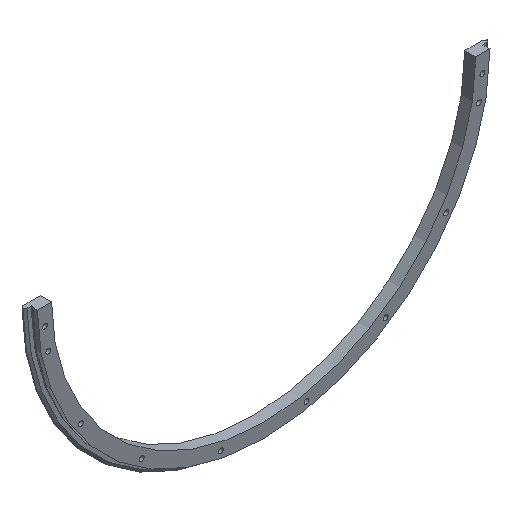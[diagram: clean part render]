
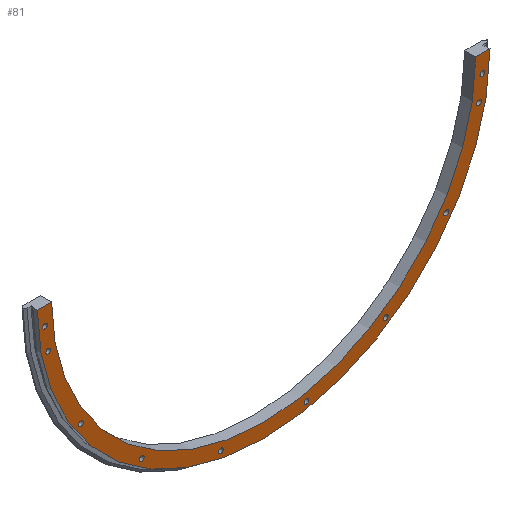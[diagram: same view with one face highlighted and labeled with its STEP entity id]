
A CAD part, isometric view. The second image highlights one B-rep face of the part: STEP entity #81.
In plain terms, the highlighted planar face has unit normal (0, -1, 0).
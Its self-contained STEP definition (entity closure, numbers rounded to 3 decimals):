
#81 = ADVANCED_FACE( '', ( #130, #131, #132, #133, #134, #135, #136, #137, #138, #139, #140 ), #141, .T. );
#130 = FACE_BOUND( '', #265, .T. );
#131 = FACE_BOUND( '', #266, .T. );
#132 = FACE_BOUND( '', #267, .T. );
#133 = FACE_BOUND( '', #268, .T. );
#134 = FACE_BOUND( '', #269, .T. );
#135 = FACE_BOUND( '', #270, .T. );
#136 = FACE_BOUND( '', #271, .T. );
#137 = FACE_BOUND( '', #272, .T. );
#138 = FACE_BOUND( '', #273, .T. );
#139 = FACE_BOUND( '', #274, .T. );
#140 = FACE_OUTER_BOUND( '', #275, .T. );
#141 = PLANE( '', #276 );
#265 = EDGE_LOOP( '', ( #436 ) );
#266 = EDGE_LOOP( '', ( #437 ) );
#267 = EDGE_LOOP( '', ( #438 ) );
#268 = EDGE_LOOP( '', ( #439 ) );
#269 = EDGE_LOOP( '', ( #440 ) );
#270 = EDGE_LOOP( '', ( #441 ) );
#271 = EDGE_LOOP( '', ( #442 ) );
#272 = EDGE_LOOP( '', ( #443 ) );
#273 = EDGE_LOOP( '', ( #444 ) );
#274 = EDGE_LOOP( '', ( #445 ) );
#275 = EDGE_LOOP( '', ( #446, #447, #448, #449 ) );
#276 = AXIS2_PLACEMENT_3D( '', #450, #451, #452 );
#436 = ORIENTED_EDGE( '', *, *, #676, .F. );
#437 = ORIENTED_EDGE( '', *, *, #677, .F. );
#438 = ORIENTED_EDGE( '', *, *, #678, .F. );
#439 = ORIENTED_EDGE( '', *, *, #679, .F. );
#440 = ORIENTED_EDGE( '', *, *, #680, .F. );
#441 = ORIENTED_EDGE( '', *, *, #681, .F. );
#442 = ORIENTED_EDGE( '', *, *, #682, .F. );
#443 = ORIENTED_EDGE( '', *, *, #683, .F. );
#444 = ORIENTED_EDGE( '', *, *, #684, .F. );
#445 = ORIENTED_EDGE( '', *, *, #685, .F. );
#446 = ORIENTED_EDGE( '', *, *, #674, .T. );
#447 = ORIENTED_EDGE( '', *, *, #655, .T. );
#448 = ORIENTED_EDGE( '', *, *, #686, .F. );
#449 = ORIENTED_EDGE( '', *, *, #687, .T. );
#450 = CARTESIAN_POINT( '', ( -298.75, 0., 0. ) );
#451 = DIRECTION( '', ( 0., -1., 0. ) );
#452 = DIRECTION( '', ( 0., 0., -1. ) );
#655 = EDGE_CURVE( '', #726, #727, #728, .T. );
#674 = EDGE_CURVE( '', #760, #726, #761, .T. );
#676 = EDGE_CURVE( '', #763, #763, #764, .T. );
#677 = EDGE_CURVE( '', #765, #765, #766, .T. );
#678 = EDGE_CURVE( '', #767, #767, #768, .T. );
#679 = EDGE_CURVE( '', #769, #769, #770, .T. );
#680 = EDGE_CURVE( '', #771, #771, #772, .T. );
#681 = EDGE_CURVE( '', #773, #773, #774, .T. );
#682 = EDGE_CURVE( '', #775, #775, #776, .T. );
#683 = EDGE_CURVE( '', #777, #777, #778, .T. );
#684 = EDGE_CURVE( '', #779, #779, #780, .T. );
#685 = EDGE_CURVE( '', #781, #781, #782, .T. );
#686 = EDGE_CURVE( '', #783, #727, #784, .T. );
#687 = EDGE_CURVE( '', #783, #760, #785, .T. );
#726 = VERTEX_POINT( '', #856 );
#727 = VERTEX_POINT( '', #857 );
#728 = LINE( '', #858, #859 );
#760 = VERTEX_POINT( '', #918 );
#761 = CIRCLE( '', #919, 318.75 );
#763 = VERTEX_POINT( '', #922 );
#764 = CIRCLE( '', #923, 3.4 );
#765 = VERTEX_POINT( '', #924 );
#766 = CIRCLE( '', #925, 3.4 );
#767 = VERTEX_POINT( '', #926 );
#768 = CIRCLE( '', #927, 3.4 );
#769 = VERTEX_POINT( '', #928 );
#770 = CIRCLE( '', #929, 3.4 );
#771 = VERTEX_POINT( '', #930 );
#772 = CIRCLE( '', #931, 3.4 );
#773 = VERTEX_POINT( '', #932 );
#774 = CIRCLE( '', #933, 3.4 );
#775 = VERTEX_POINT( '', #934 );
#776 = CIRCLE( '', #935, 3.4 );
#777 = VERTEX_POINT( '', #936 );
#778 = CIRCLE( '', #937, 3.4 );
#779 = VERTEX_POINT( '', #938 );
#780 = CIRCLE( '', #939, 3.4 );
#781 = VERTEX_POINT( '', #940 );
#782 = CIRCLE( '', #941, 3.4 );
#783 = VERTEX_POINT( '', #942 );
#784 = CIRCLE( '', #943, 298.75 );
#785 = LINE( '', #944, #945 );
#856 = CARTESIAN_POINT( '', ( 318.74, 0., -2.5 ) );
#857 = CARTESIAN_POINT( '', ( 298.74, 0., -2.5 ) );
#858 = CARTESIAN_POINT( '', ( 328.75, 0., -2.5 ) );
#859 = VECTOR( '', #1030, 1000. );
#918 = CARTESIAN_POINT( '', ( -318.74, 0., -2.5 ) );
#919 = AXIS2_PLACEMENT_3D( '', #1055, #1056, #1057 );
#922 = CARTESIAN_POINT( '', ( 257.132, 0., -175.21 ) );
#923 = AXIS2_PLACEMENT_3D( '', #1059, #1060, #1061 );
#924 = CARTESIAN_POINT( '', ( 171.81, 0., -260.532 ) );
#925 = AXIS2_PLACEMENT_3D( '', #1062, #1063, #1064 );
#926 = CARTESIAN_POINT( '', ( 60.332, 0., -306.708 ) );
#927 = AXIS2_PLACEMENT_3D( '', #1065, #1066, #1067 );
#928 = CARTESIAN_POINT( '', ( -257.132, 0., -175.21 ) );
#929 = AXIS2_PLACEMENT_3D( '', #1068, #1069, #1070 );
#930 = CARTESIAN_POINT( '', ( -171.81, 0., -260.532 ) );
#931 = AXIS2_PLACEMENT_3D( '', #1071, #1072, #1073 );
#932 = CARTESIAN_POINT( '', ( -60.332, 0., -306.708 ) );
#933 = AXIS2_PLACEMENT_3D( '', #1074, #1075, #1076 );
#934 = CARTESIAN_POINT( '', ( -303.308, 0., -63.732 ) );
#935 = AXIS2_PLACEMENT_3D( '', #1077, #1078, #1079 );
#936 = CARTESIAN_POINT( '', ( -308.025, 0., -30.901 ) );
#937 = AXIS2_PLACEMENT_3D( '', #1080, #1081, #1082 );
#938 = CARTESIAN_POINT( '', ( 303.308, 0., -63.732 ) );
#939 = AXIS2_PLACEMENT_3D( '', #1083, #1084, #1085 );
#940 = CARTESIAN_POINT( '', ( 308.025, 0., -30.901 ) );
#941 = AXIS2_PLACEMENT_3D( '', #1086, #1087, #1088 );
#942 = CARTESIAN_POINT( '', ( -298.74, 0., -2.5 ) );
#943 = AXIS2_PLACEMENT_3D( '', #1089, #1090, #1091 );
#944 = CARTESIAN_POINT( '', ( 328.75, 0., -2.5 ) );
#945 = VECTOR( '', #1092, 1000. );
#1030 = DIRECTION( '', ( -1., 0., 0. ) );
#1055 = CARTESIAN_POINT( '', ( 0., 0., 0. ) );
#1056 = DIRECTION( '', ( 0., -1., 0. ) );
#1057 = DIRECTION( '', ( 0., 0., -1. ) );
#1059 = CARTESIAN_POINT( '', ( 257.132, 0., -171.81 ) );
#1060 = DIRECTION( '', ( 0., -1., 0. ) );
#1061 = DIRECTION( '', ( 0., 0., -1. ) );
#1062 = CARTESIAN_POINT( '', ( 171.81, 0., -257.132 ) );
#1063 = DIRECTION( '', ( 0., -1., 0. ) );
#1064 = DIRECTION( '', ( 0., 0., -1. ) );
#1065 = CARTESIAN_POINT( '', ( 60.332, 0., -303.308 ) );
#1066 = DIRECTION( '', ( 0., -1., 0. ) );
#1067 = DIRECTION( '', ( 0., 0., -1. ) );
#1068 = CARTESIAN_POINT( '', ( -257.132, 0., -171.81 ) );
#1069 = DIRECTION( '', ( 0., -1., 0. ) );
#1070 = DIRECTION( '', ( 0., 0., -1. ) );
#1071 = CARTESIAN_POINT( '', ( -171.81, 0., -257.132 ) );
#1072 = DIRECTION( '', ( 0., -1., 0. ) );
#1073 = DIRECTION( '', ( 0., 0., -1. ) );
#1074 = CARTESIAN_POINT( '', ( -60.332, 0., -303.308 ) );
#1075 = DIRECTION( '', ( 0., -1., 0. ) );
#1076 = DIRECTION( '', ( 0., 0., -1. ) );
#1077 = CARTESIAN_POINT( '', ( -303.308, 0., -60.332 ) );
#1078 = DIRECTION( '', ( 0., -1., 0. ) );
#1079 = DIRECTION( '', ( 0., 0., -1. ) );
#1080 = CARTESIAN_POINT( '', ( -308.025, 0., -27.501 ) );
#1081 = DIRECTION( '', ( 0., -1., 0. ) );
#1082 = DIRECTION( '', ( 0., 0., -1. ) );
#1083 = CARTESIAN_POINT( '', ( 303.308, 0., -60.332 ) );
#1084 = DIRECTION( '', ( 0., -1., 0. ) );
#1085 = DIRECTION( '', ( 0., 0., -1. ) );
#1086 = CARTESIAN_POINT( '', ( 308.025, 0., -27.501 ) );
#1087 = DIRECTION( '', ( 0., -1., 0. ) );
#1088 = DIRECTION( '', ( 0., 0., -1. ) );
#1089 = CARTESIAN_POINT( '', ( 0., 0., 0. ) );
#1090 = DIRECTION( '', ( 0., -1., 0. ) );
#1091 = DIRECTION( '', ( 0., 0., -1. ) );
#1092 = DIRECTION( '', ( -1., 0., 0. ) );
